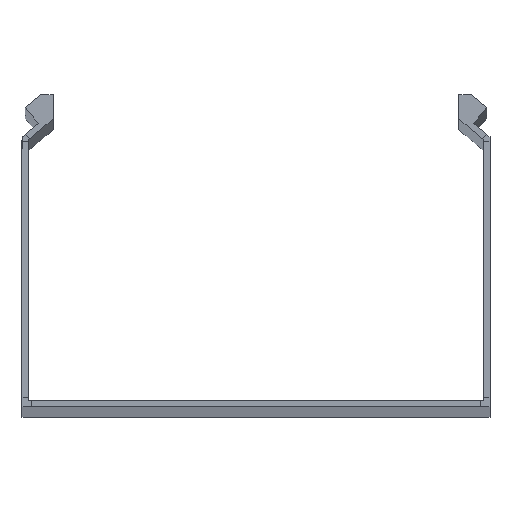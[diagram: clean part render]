
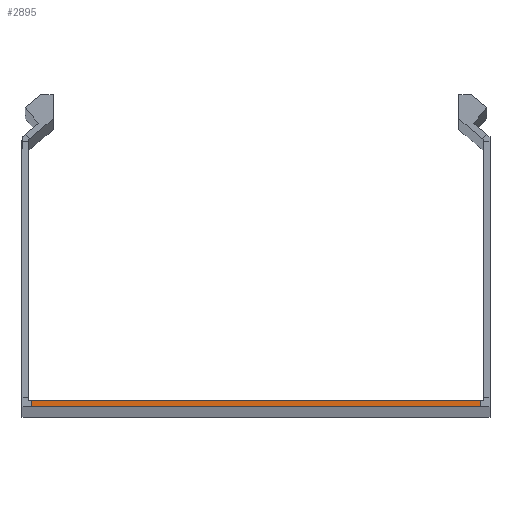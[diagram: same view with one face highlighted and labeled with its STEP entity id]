
A CAD part, top view. The second image highlights one B-rep face of the part: STEP entity #2895.
In plain terms, the highlighted planar face has unit normal (0, 0, 1).
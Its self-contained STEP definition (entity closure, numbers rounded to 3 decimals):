
#127 = LINE ( 'NONE', #4439, #3805 ) ;
#178 = CARTESIAN_POINT ( 'NONE',  ( -72., 2., 1000. ) ) ;
#190 = EDGE_CURVE ( 'NONE', #1391, #3489, #1579, .T. ) ;
#318 = DIRECTION ( 'NONE',  ( 0., -1., 0. ) ) ;
#355 = CARTESIAN_POINT ( 'NONE',  ( -72., 0., 1000. ) ) ;
#362 = VECTOR ( 'NONE', #1816, 1000. ) ;
#404 = EDGE_LOOP ( 'NONE', ( #3083, #3036, #663, #2148 ) ) ;
#499 = FACE_OUTER_BOUND ( 'NONE', #404, .T. ) ;
#663 = ORIENTED_EDGE ( 'NONE', *, *, #1243, .T. ) ;
#803 = CARTESIAN_POINT ( 'NONE',  ( -75., 2., 1000. ) ) ;
#1026 = VERTEX_POINT ( 'NONE', #178 ) ;
#1037 = DIRECTION ( 'NONE',  ( 0., 0., 1. ) ) ;
#1126 = CARTESIAN_POINT ( 'NONE',  ( -75., 0., 1000. ) ) ;
#1243 = EDGE_CURVE ( 'NONE', #3489, #1026, #5460, .T. ) ;
#1391 = VERTEX_POINT ( 'NONE', #3050 ) ;
#1400 = EDGE_CURVE ( 'NONE', #1026, #4599, #127, .T. ) ;
#1523 = CARTESIAN_POINT ( 'NONE',  ( 72., 2., 1000. ) ) ;
#1579 = LINE ( 'NONE', #1795, #362 ) ;
#1795 = CARTESIAN_POINT ( 'NONE',  ( 72., 0., 1000. ) ) ;
#1816 = DIRECTION ( 'NONE',  ( 0., 1., 0. ) ) ;
#2071 = LINE ( 'NONE', #1126, #2219 ) ;
#2148 = ORIENTED_EDGE ( 'NONE', *, *, #1400, .T. ) ;
#2219 = VECTOR ( 'NONE', #3956, 1000. ) ;
#2453 = PLANE ( 'NONE',  #3484 ) ;
#2505 = EDGE_CURVE ( 'NONE', #1391, #4599, #2071, .T. ) ;
#2895 = ADVANCED_FACE ( 'NONE', ( #499 ), #2453, .T. ) ;
#3036 = ORIENTED_EDGE ( 'NONE', *, *, #190, .T. ) ;
#3050 = CARTESIAN_POINT ( 'NONE',  ( 72., 0., 1000. ) ) ;
#3083 = ORIENTED_EDGE ( 'NONE', *, *, #2505, .F. ) ;
#3484 = AXIS2_PLACEMENT_3D ( 'NONE', #3827, #1037, #5690 ) ;
#3489 = VERTEX_POINT ( 'NONE', #1523 ) ;
#3805 = VECTOR ( 'NONE', #318, 1000. ) ;
#3827 = CARTESIAN_POINT ( 'NONE',  ( 73., 3., 1000. ) ) ;
#3956 = DIRECTION ( 'NONE',  ( -1., 0., 0. ) ) ;
#4439 = CARTESIAN_POINT ( 'NONE',  ( -72., 2., 1000. ) ) ;
#4599 = VERTEX_POINT ( 'NONE', #355 ) ;
#4652 = DIRECTION ( 'NONE',  ( -1., 0., 0. ) ) ;
#5460 = LINE ( 'NONE', #803, #5964 ) ;
#5690 = DIRECTION ( 'NONE',  ( 1., 0., 0. ) ) ;
#5964 = VECTOR ( 'NONE', #4652, 1000. ) ;
